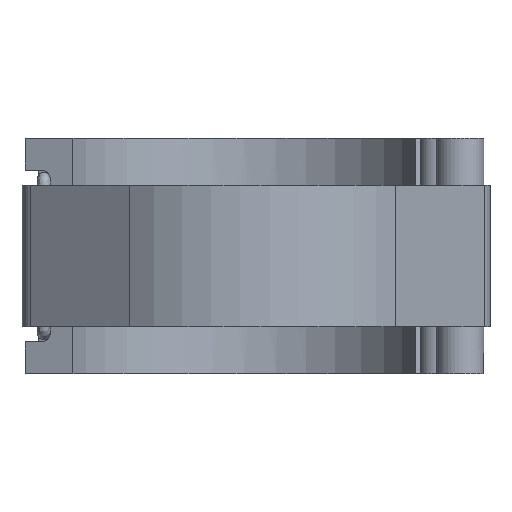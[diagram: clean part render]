
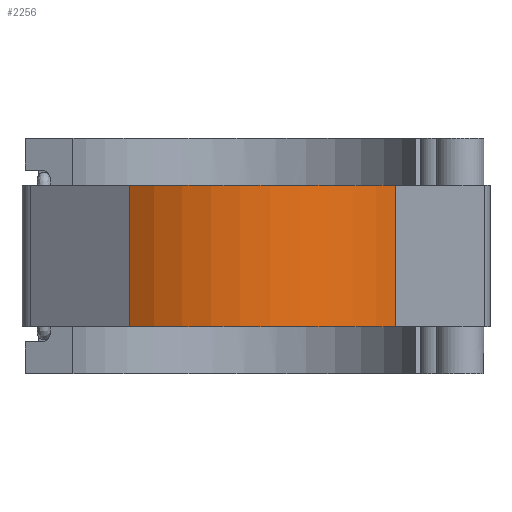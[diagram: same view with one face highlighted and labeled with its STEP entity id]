
A CAD part, front view. The second image highlights one B-rep face of the part: STEP entity #2256.
In plain terms, the highlighted cylindrical face has radius 140.44 mm (diameter 280.881 mm), a partial arc.
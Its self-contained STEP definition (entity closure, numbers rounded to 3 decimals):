
#216=FACE_OUTER_BOUND('',#351,.T.);
#351=EDGE_LOOP('',(#1991,#1992,#1993,#1994));
#447=CIRCLE('',#2420,140.441);
#453=CIRCLE('',#2427,140.441);
#703=LINE('',#4141,#891);
#708=LINE('',#4149,#896);
#891=VECTOR('',#3103,10.);
#896=VECTOR('',#3114,10.);
#1022=VERTEX_POINT('',#3828);
#1023=VERTEX_POINT('',#3830);
#1029=VERTEX_POINT('',#3847);
#1030=VERTEX_POINT('',#3849);
#1275=EDGE_CURVE('',#1022,#1023,#447,.T.);
#1286=EDGE_CURVE('',#1029,#1030,#453,.T.);
#1403=EDGE_CURVE('',#1029,#1023,#703,.T.);
#1408=EDGE_CURVE('',#1022,#1030,#708,.T.);
#1991=ORIENTED_EDGE('',*,*,#1408,.T.);
#1992=ORIENTED_EDGE('',*,*,#1286,.F.);
#1993=ORIENTED_EDGE('',*,*,#1403,.T.);
#1994=ORIENTED_EDGE('',*,*,#1275,.F.);
#2144=CYLINDRICAL_SURFACE('',#2500,140.441);
#2256=ADVANCED_FACE('',(#216),#2144,.T.);
#2420=AXIS2_PLACEMENT_3D('',#3831,#2862,#2863);
#2427=AXIS2_PLACEMENT_3D('',#3850,#2881,#2882);
#2500=AXIS2_PLACEMENT_3D('',#4150,#3115,#3116);
#2862=DIRECTION('center_axis',(0.,0.,-1.));
#2863=DIRECTION('ref_axis',(0.611,0.791,0.));
#2881=DIRECTION('center_axis',(0.,0.,1.));
#2882=DIRECTION('ref_axis',(0.611,0.791,0.));
#3103=DIRECTION('',(0.,0.,-1.));
#3114=DIRECTION('',(0.,0.,1.));
#3115=DIRECTION('center_axis',(0.,0.,1.));
#3116=DIRECTION('ref_axis',(0.611,0.791,0.));
#3828=CARTESIAN_POINT('',(113.201,-83.121,-52.807));
#3830=CARTESIAN_POINT('',(-85.876,-111.126,-52.807));
#3831=CARTESIAN_POINT('Origin',(0.,0.,
-52.807));
#3847=CARTESIAN_POINT('',(-85.876,-111.126,52.807));
#3849=CARTESIAN_POINT('',(113.201,-83.121,52.807));
#3850=CARTESIAN_POINT('Origin',(0.,0.,
52.807));
#4141=CARTESIAN_POINT('',(-85.876,-111.126,0.));
#4149=CARTESIAN_POINT('',(113.201,-83.121,0.));
#4150=CARTESIAN_POINT('Origin',(0.,0.,
0.));
